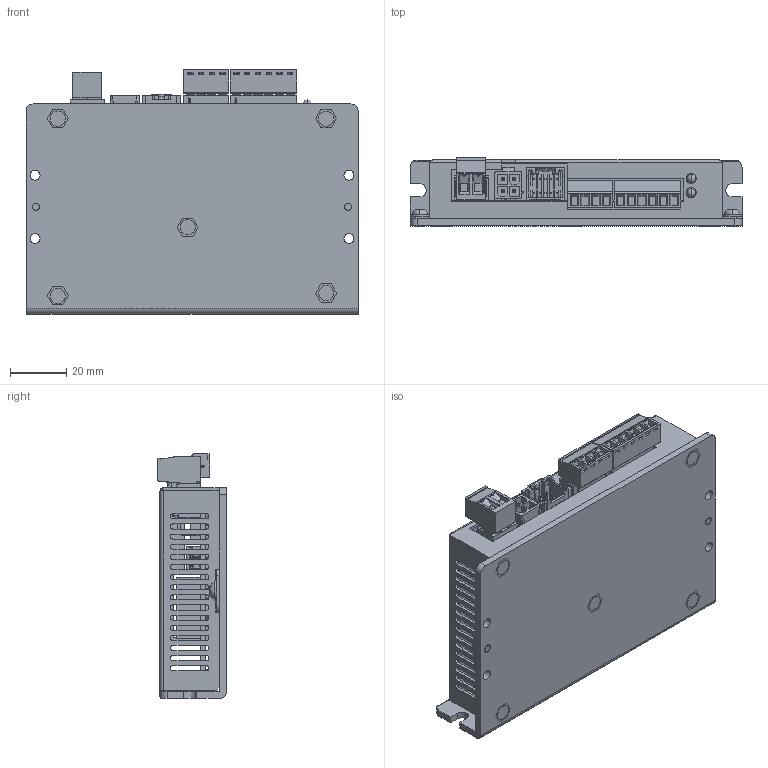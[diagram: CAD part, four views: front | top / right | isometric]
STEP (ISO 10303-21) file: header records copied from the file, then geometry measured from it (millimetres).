
FILE_DESCRIPTION((''),'2;1');
FILE_NAME('ESD2505M_ASM','2024-10-31T14:33:53',('Admin'),(''),'CREO PARAMETRIC BY PTC INC, 2020074','CREO PARAMETRIC BY PTC INC, 2020074','');
FILE_SCHEMA(('CONFIG_CONTROL_DESIGN'));
Products named in the file (24): ESD2505M-DOWN; BSO-3_5M3; ESD2505M-DOWN_ASM; ESD2505M-UP; PCB; 2EDGRC-5_08-02P-14-100AH; 15EDGRC-3_81-06P-14-00A_H_; 15EDGRC-3_81-04P-14-00A_H_; 026013115; 559591030; EPS106A-8P; GWFB104-04XXA802EB-1_1_1_1; GWFB104-04XXA802EB-2_1_1_1; GWFB104-04XXA802EB_ASM_1_ASM__1_ASM; GWFB104-04XXA802EB_ASM_1_1_ASM; ASM0001_ASM; 3024RG-H2-2; MK22D10G3-LCP; PCBA_ASM; GBT9074_1_M3X4; 15EDGK-3_81-06P-14-00A_H_; 15EDGK-3_81-04P-14-00A_H_; 2EDGK-5_08-02P-14-1000A_H_-T0; ESD2505M_ASM
Assembly tree (28 placements, depth 6):
  ESD2505M_ASM
    ESD2505M-DOWN_ASM
      ESD2505M-DOWN
      BSO-3_5M3  x5
    ESD2505M-UP
    PCBA_ASM
      PCB
      2EDGRC-5_08-02P-14-100AH
      15EDGRC-3_81-06P-14-00A_H_
      15EDGRC-3_81-04P-14-00A_H_
      026013115
      559591030
      EPS106A-8P
      ASM0001_ASM
        GWFB104-04XXA802EB_ASM_1_1_ASM
          GWFB104-04XXA802EB_ASM_1_ASM__1_ASM
            GWFB104-04XXA802EB-1_1_1_1
            GWFB104-04XXA802EB-2_1_1_1
      3024RG-H2-2
      MK22D10G3-LCP
    GBT9074_1_M3X4  x2
    15EDGK-3_81-06P-14-00A_H_
    15EDGK-3_81-04P-14-00A_H_
    2EDGK-5_08-02P-14-1000A_H_-T0
Bounding box: 118 x 24.25 x 86.8 mm (x, y, z)
Volume: 63438.7 mm3; surface area: 78521.7 mm2
Topology: 23 solids, 25 shells, 4954 faces, 13558 edges, 8916 vertices
Faces by surface type: plane 4306, cylinder 523, cone 58, torus 46, bspline 12, sphere 8, extrusion 1
Entity records: 154152 total; most frequent: CARTESIAN_POINT 28952, ORIENTED_EDGE 26744, DIRECTION 24233, EDGE_CURVE 13372, VECTOR 11707, LINE 11706, VERTEX_POINT 8798, AXIS2_PLACEMENT_3D 6263
